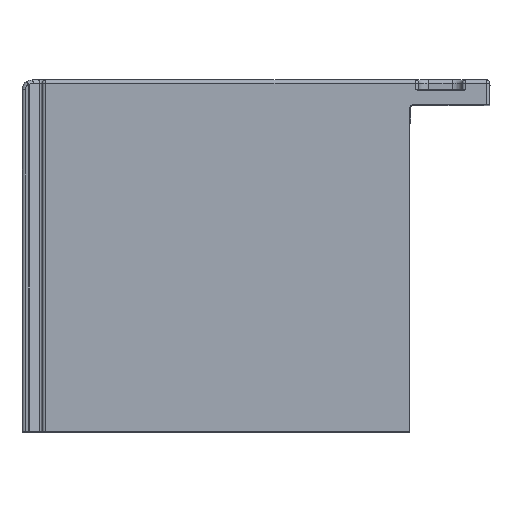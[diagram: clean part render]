
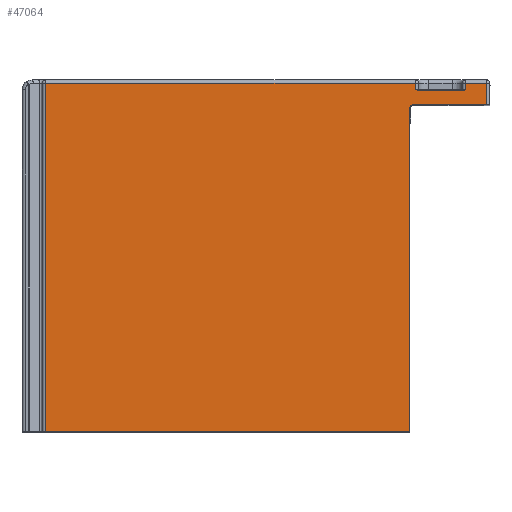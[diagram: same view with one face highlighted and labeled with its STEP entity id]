
A CAD part, top view. The second image highlights one B-rep face of the part: STEP entity #47064.
In plain terms, the highlighted planar face has unit normal (0, 0, 1).
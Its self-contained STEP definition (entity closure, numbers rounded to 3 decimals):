
#16220=CARTESIAN_POINT('',(-108.394,32.3,70.));
#16221=CARTESIAN_POINT('',(-108.357,32.3,
70.));
#16222=CARTESIAN_POINT('',(-108.279,32.306,
70.));
#16223=CARTESIAN_POINT('',(-108.157,32.333,
70.));
#16224=CARTESIAN_POINT('',(-108.031,32.377,
70.));
#16225=CARTESIAN_POINT('',(-107.91,32.435,
70.));
#16226=CARTESIAN_POINT('',(-107.835,32.478,
70.));
#16227=CARTESIAN_POINT('',(-107.798,32.5,
70.));
#16229=DIRECTION('',(0.,1.,0.));
#16230=VECTOR('',#16229,1.8);
#16231=CARTESIAN_POINT('',(-107.5,32.7,70.));
#16232=LINE('',#16231,#16230);
#16233=DIRECTION('',(-1.,0.,0.));
#16234=VECTOR('',#16233,6.3);
#16235=CARTESIAN_POINT('',(-101.2,34.5,70.));
#16236=LINE('',#16235,#16234);
#16237=DIRECTION('',(0.,1.,0.));
#16238=VECTOR('',#16237,6.5);
#16239=CARTESIAN_POINT('',(-101.2,28.,70.));
#16240=LINE('',#16239,#16238);
#16241=DIRECTION('',(1.,0.,0.));
#16242=VECTOR('',#16241,22.);
#16243=CARTESIAN_POINT('',(-123.2,28.,70.));
#16244=LINE('',#16243,#16242);
#16245=DIRECTION('',(0.,1.,0.));
#16246=VECTOR('',#16245,96.5);
#16247=CARTESIAN_POINT('',(-124.2,-69.5,70.));
#16248=LINE('',#16247,#16246);
#16249=DIRECTION('',(-1.,0.,0.));
#16250=VECTOR('',#16249,108.8);
#16251=CARTESIAN_POINT('',(-124.2,-69.5,70.));
#16252=LINE('',#16251,#16250);
#16253=DIRECTION('',(0.,-1.,0.));
#16254=VECTOR('',#16253,104.);
#16255=CARTESIAN_POINT('',(-233.,34.5,70.));
#16256=LINE('',#16255,#16254);
#16257=DIRECTION('',(-1.,0.,0.));
#16258=VECTOR('',#16257,110.5);
#16259=CARTESIAN_POINT('',(-122.5,34.5,70.));
#16260=LINE('',#16259,#16258);
#16261=DIRECTION('',(0.,-1.,0.));
#16262=VECTOR('',#16261,1.8);
#16263=CARTESIAN_POINT('',(-122.5,34.5,70.));
#16264=LINE('',#16263,#16262);
#16265=CARTESIAN_POINT('',(-122.202,32.5,
70.));
#16266=CARTESIAN_POINT('',(-122.166,32.478,
70.));
#16267=CARTESIAN_POINT('',(-122.096,32.438,
70.));
#16268=CARTESIAN_POINT('',(-121.992,32.388,
70.));
#16269=CARTESIAN_POINT('',(-121.892,32.349,
70.));
#16270=CARTESIAN_POINT('',(-121.795,32.321,
70.));
#16271=CARTESIAN_POINT('',(-121.701,32.304,
70.));
#16272=CARTESIAN_POINT('',(-121.637,32.3,
70.));
#16273=CARTESIAN_POINT('',(-121.606,32.3,70.));
#16275=DIRECTION('',(1.,0.,0.));
#16276=VECTOR('',#16275,13.211);
#16277=CARTESIAN_POINT('',(-121.606,32.3,70.));
#16278=LINE('',#16277,#16276);
#16313=CARTESIAN_POINT('',(-122.5,32.7,70.));
#16314=CARTESIAN_POINT('',(-122.473,32.681,
70.));
#16315=CARTESIAN_POINT('',(-122.414,32.639,
70.));
#16316=CARTESIAN_POINT('',(-122.306,32.565,
70.));
#16317=CARTESIAN_POINT('',(-122.237,32.521,
70.));
#16318=CARTESIAN_POINT('',(-122.202,32.5,
70.));
#17312=CARTESIAN_POINT('',(-107.798,32.5,
70.));
#17313=CARTESIAN_POINT('',(-107.758,32.524,
70.));
#17314=CARTESIAN_POINT('',(-107.684,32.572,
70.));
#17315=CARTESIAN_POINT('',(-107.584,32.641,
70.));
#17316=CARTESIAN_POINT('',(-107.527,32.681,
70.));
#17317=CARTESIAN_POINT('',(-107.5,32.7,70.));
#17336=CARTESIAN_POINT('',(-123.2,27.,70.));
#17337=DIRECTION('',(0.,0.,-1.));
#17338=DIRECTION('',(-1.,0.,0.));
#17339=AXIS2_PLACEMENT_3D('',#17336,#17337,#17338);
#22189=CARTESIAN_POINT('',(-124.2,-69.5,70.));
#22190=VERTEX_POINT('',#22189);
#23187=CARTESIAN_POINT('',(-233.,-69.5,70.));
#23189=VERTEX_POINT('',#23187);
#23261=CARTESIAN_POINT('',(-233.,34.5,70.));
#23262=VERTEX_POINT('',#23261);
#23266=CARTESIAN_POINT('',(-123.2,28.,70.));
#23268=VERTEX_POINT('',#23266);
#23270=CARTESIAN_POINT('',(-124.2,27.,70.));
#23272=VERTEX_POINT('',#23270);
#26496=CARTESIAN_POINT('',(-122.5,34.5,70.));
#26498=VERTEX_POINT('',#26496);
#26521=CARTESIAN_POINT('',(-107.5,34.5,70.));
#26522=VERTEX_POINT('',#26521);
#26524=CARTESIAN_POINT('',(-101.2,28.,70.));
#26526=VERTEX_POINT('',#26524);
#26527=CARTESIAN_POINT('',(-101.2,34.5,70.));
#26528=VERTEX_POINT('',#26527);
#26551=CARTESIAN_POINT('',(-121.606,32.3,70.));
#26552=CARTESIAN_POINT('',(-108.394,32.3,70.));
#26553=VERTEX_POINT('',#26551);
#26554=VERTEX_POINT('',#26552);
#26561=CARTESIAN_POINT('',(-107.5,32.7,70.));
#26563=VERTEX_POINT('',#26561);
#26585=CARTESIAN_POINT('',(-122.5,32.7,70.));
#26586=VERTEX_POINT('',#26585);
#26587=VERTEX_POINT('',#16265);
#26588=VERTEX_POINT('',#16227);
#47030=CARTESIAN_POINT('',(0.,0.,70.));
#47031=DIRECTION('',(0.,0.,1.));
#47032=DIRECTION('',(1.,0.,0.));
#47033=AXIS2_PLACEMENT_3D('',#47030,#47031,#47032);
#47034=PLANE('',#47033);
#47036=ORIENTED_EDGE('',*,*,#47035,.T.);
#47038=ORIENTED_EDGE('',*,*,#47037,.T.);
#47040=ORIENTED_EDGE('',*,*,#47039,.T.);
#47042=ORIENTED_EDGE('',*,*,#47041,.F.);
#47043=ORIENTED_EDGE('',*,*,#47022,.F.);
#47044=ORIENTED_EDGE('',*,*,#28111,.F.);
#47046=ORIENTED_EDGE('',*,*,#47045,.F.);
#47048=ORIENTED_EDGE('',*,*,#47047,.F.);
#47049=ORIENTED_EDGE('',*,*,#30064,.T.);
#47051=ORIENTED_EDGE('',*,*,#47050,.F.);
#47053=ORIENTED_EDGE('',*,*,#47052,.F.);
#47055=ORIENTED_EDGE('',*,*,#47054,.T.);
#47057=ORIENTED_EDGE('',*,*,#47056,.T.);
#47059=ORIENTED_EDGE('',*,*,#47058,.T.);
#47061=ORIENTED_EDGE('',*,*,#47060,.T.);
#47062=EDGE_LOOP('',(#47036,#47038,#47040,#47042,#47043,#47044,#47046,#47048,
#47049,#47051,#47053,#47055,#47057,#47059,#47061));
#47063=FACE_OUTER_BOUND('',#47062,.F.);
#47064=ADVANCED_FACE('',(#47063),#47034,.T.);
#16228=B_SPLINE_CURVE_WITH_KNOTS('',3,(#16220,#16221,#16222,#16223,#16224,
#16225,#16226,#16227),.UNSPECIFIED.,.F.,.F.,(4,1,1,1,1,4),(0.,0.2,0.4,
0.6,0.8,1.),.UNSPECIFIED.);
#16274=B_SPLINE_CURVE_WITH_KNOTS('',3,(#16265,#16266,#16267,#16268,#16269,
#16270,#16271,#16272,#16273),.UNSPECIFIED.,.F.,.F.,(4,1,1,1,1,1,4),(0.,
0.167,0.333,0.5,0.667,0.833,
1.),.UNSPECIFIED.);
#16319=B_SPLINE_CURVE_WITH_KNOTS('',3,(#16313,#16314,#16315,#16316,#16317,
#16318),.UNSPECIFIED.,.F.,.F.,(4,1,1,4),(0.,0.333,
0.667,1.),.UNSPECIFIED.);
#17318=B_SPLINE_CURVE_WITH_KNOTS('',3,(#17312,#17313,#17314,#17315,#17316,
#17317),.UNSPECIFIED.,.F.,.F.,(4,1,1,4),(0.,0.333,
0.667,1.),.UNSPECIFIED.);
#17340=CIRCLE('',#17339,1.);
#28111=EDGE_CURVE('',#23268,#26526,#16244,.T.);
#30064=EDGE_CURVE('',#22190,#23189,#16252,.T.);
#47022=EDGE_CURVE('',#26526,#26528,#16240,.T.);
#47035=EDGE_CURVE('',#26554,#26588,#16228,.T.);
#47037=EDGE_CURVE('',#26588,#26563,#17318,.T.);
#47039=EDGE_CURVE('',#26563,#26522,#16232,.T.);
#47041=EDGE_CURVE('',#26528,#26522,#16236,.T.);
#47045=EDGE_CURVE('',#23272,#23268,#17340,.T.);
#47047=EDGE_CURVE('',#22190,#23272,#16248,.T.);
#47050=EDGE_CURVE('',#23262,#23189,#16256,.T.);
#47052=EDGE_CURVE('',#26498,#23262,#16260,.T.);
#47054=EDGE_CURVE('',#26498,#26586,#16264,.T.);
#47056=EDGE_CURVE('',#26586,#26587,#16319,.T.);
#47058=EDGE_CURVE('',#26587,#26553,#16274,.T.);
#47060=EDGE_CURVE('',#26553,#26554,#16278,.T.);
